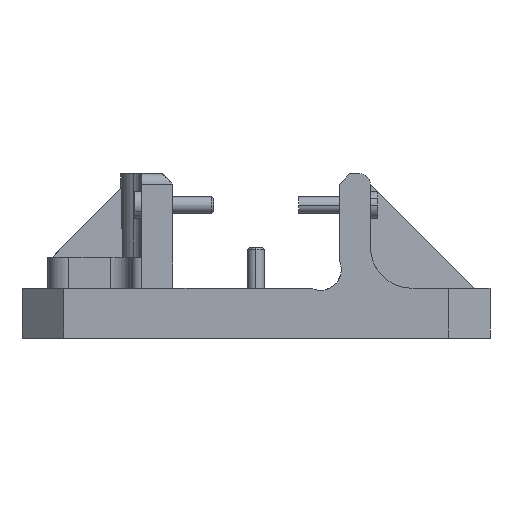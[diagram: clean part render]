
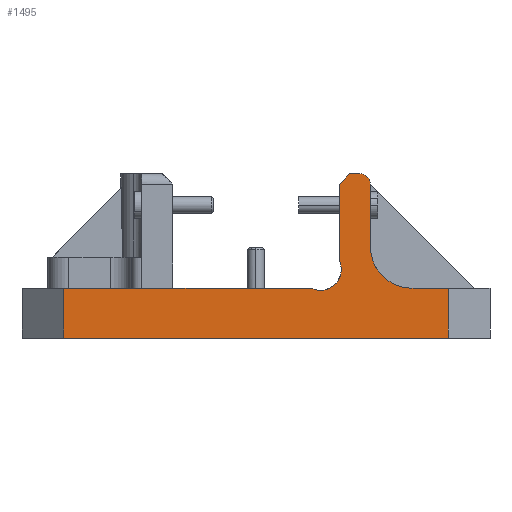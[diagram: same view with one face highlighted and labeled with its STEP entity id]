
A CAD part, front view. The second image highlights one B-rep face of the part: STEP entity #1495.
In plain terms, the highlighted planar face has unit normal (0, -1, 0).
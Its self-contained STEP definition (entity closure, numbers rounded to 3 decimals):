
#1495=ADVANCED_FACE('Pad.2',(#3597),#3598,.F.);
#3597=FACE_OUTER_BOUND('',#6693,.T.);
#3598=PLANE('',#6694);
#6693=EDGE_LOOP('',(#10178,#10179,#10180,#10181,#10182,#10183,#10184,#10185,#10186,#10187,#10188,#10189,#10190));
#6694=AXIS2_PLACEMENT_3D('',#10191,#10192,#10193);
#10178=ORIENTED_EDGE('',*,*,#17808,.T.);
#10179=ORIENTED_EDGE('',*,*,#17809,.T.);
#10180=ORIENTED_EDGE('',*,*,#17810,.F.);
#10181=ORIENTED_EDGE('',*,*,#17811,.T.);
#10182=ORIENTED_EDGE('',*,*,#17806,.F.);
#10183=ORIENTED_EDGE('',*,*,#17783,.T.);
#10184=ORIENTED_EDGE('',*,*,#17812,.T.);
#10185=ORIENTED_EDGE('',*,*,#17760,.T.);
#10186=ORIENTED_EDGE('',*,*,#17813,.T.);
#10187=ORIENTED_EDGE('',*,*,#17814,.F.);
#10188=ORIENTED_EDGE('',*,*,#17815,.T.);
#10189=ORIENTED_EDGE('',*,*,#17816,.T.);
#10190=ORIENTED_EDGE('',*,*,#17817,.T.);
#10191=CARTESIAN_POINT('',(0.0,-157.5,0.0));
#10192=DIRECTION('',(0.0,1.0,0.0));
#10193=DIRECTION('',(0.0,0.0,1.0));
#17760=EDGE_CURVE('',#21231,#21235,#21237,.T.);
#17783=EDGE_CURVE('',#21269,#21274,#21276,.T.);
#17806=EDGE_CURVE('',#21269,#21303,#21307,.F.);
#17808=EDGE_CURVE('',#21309,#21310,#21311,.T.);
#17809=EDGE_CURVE('',#21310,#21312,#21313,.T.);
#17810=EDGE_CURVE('',#21314,#21312,#21315,.T.);
#17811=EDGE_CURVE('',#21314,#21303,#21316,.F.);
#17812=EDGE_CURVE('',#21274,#21231,#21317,.T.);
#17813=EDGE_CURVE('',#21235,#21318,#21319,.T.);
#17814=EDGE_CURVE('',#21320,#21318,#21321,.T.);
#17815=EDGE_CURVE('',#21320,#21322,#21323,.F.);
#17816=EDGE_CURVE('',#21322,#21324,#21325,.T.);
#17817=EDGE_CURVE('',#21324,#21309,#21326,.F.);
#21231=VERTEX_POINT('',#26243);
#21235=VERTEX_POINT('',#26248);
#21237=CIRCLE('',#26251,10.0);
#21269=VERTEX_POINT('',#26291);
#21274=VERTEX_POINT('',#26298);
#21276=LINE('',#26301,#26302);
#21303=VERTEX_POINT('',#26331);
#21307=LINE('',#26337,#26338);
#21309=VERTEX_POINT('',#26340);
#21310=VERTEX_POINT('',#26341);
#21311=CIRCLE('',#26342,20.0);
#21312=VERTEX_POINT('',#26343);
#21313=LINE('',#26344,#26345);
#21314=VERTEX_POINT('',#26346);
#21315=CIRCLE('',#26347,5.0);
#21316=LINE('',#26348,#26349);
#21317=CIRCLE('',#26350,10.0);
#21318=VERTEX_POINT('',#26351);
#21319=LINE('',#26352,#26353);
#21320=VERTEX_POINT('',#26354);
#21321=LINE('',#26355,#26356);
#21322=VERTEX_POINT('',#26357);
#21323=LINE('',#26358,#26359);
#21324=VERTEX_POINT('',#26360);
#21325=LINE('',#26361,#26362);
#21326=LINE('',#26363,#26364);
#26243=CARTESIAN_POINT('',(31.,-157.5,6.));
#26248=CARTESIAN_POINT('',(26.641,-157.5,7.));
#26251=AXIS2_PLACEMENT_3D('',#32104,#32105,#32106);
#26291=CARTESIAN_POINT('',(40.0,-157.5,57.));
#26298=CARTESIAN_POINT('',(40.0,-157.5,20.359));
#26301=CARTESIAN_POINT('',(40.0,-157.5,38.679));
#26302=VECTOR('',#32136,1.0);
#26331=CARTESIAN_POINT('',(45.0,-157.5,62.));
#26337=CARTESIAN_POINT('',(42.5,-157.5,59.5));
#26338=VECTOR('',#32183,1.0);
#26340=CARTESIAN_POINT('',(75.,-157.5,7.));
#26341=CARTESIAN_POINT('',(55.,-157.5,27.));
#26342=AXIS2_PLACEMENT_3D('',#32184,#32185,#32186);
#26343=CARTESIAN_POINT('',(55.,-157.5,57.));
#26344=CARTESIAN_POINT('',(55.,-157.5,42.));
#26345=VECTOR('',#32187,1.0);
#26346=CARTESIAN_POINT('',(50.,-157.5,62.));
#26347=AXIS2_PLACEMENT_3D('',#32188,#32189,#32190);
#26348=CARTESIAN_POINT('',(47.5,-157.5,62.));
#26349=VECTOR('',#32191,1.0);
#26350=AXIS2_PLACEMENT_3D('',#32192,#32193,#32194);
#26351=CARTESIAN_POINT('',(-92.5,-157.5,7.));
#26352=CARTESIAN_POINT('',(-32.929,-157.5,7.));
#26353=VECTOR('',#32195,1.0);
#26354=CARTESIAN_POINT('',(-92.5,-157.5,-17.0));
#26355=CARTESIAN_POINT('',(-92.5,-157.5,-5.));
#26356=VECTOR('',#32196,1.0);
#26357=CARTESIAN_POINT('',(92.5,-157.5,-17.0));
#26358=CARTESIAN_POINT('',(0.,-157.5,-17.0));
#26359=VECTOR('',#32197,1.0);
#26360=CARTESIAN_POINT('',(92.5,-157.5,7.));
#26361=CARTESIAN_POINT('',(92.5,-157.5,-5.));
#26362=VECTOR('',#32198,1.0);
#26363=CARTESIAN_POINT('',(83.75,-157.5,7.));
#26364=VECTOR('',#32199,1.0);
#32104=CARTESIAN_POINT('',(31.,-157.5,16.));
#32105=DIRECTION('',(0.0,1.0,0.0));
#32106=DIRECTION('',(0.0,0.0,1.0));
#32136=DIRECTION('',(0.0,0.0,-1.0));
#32183=DIRECTION('',(-0.707,0.0,-0.707));
#32184=CARTESIAN_POINT('',(75.,-157.5,27.));
#32185=DIRECTION('',(0.0,1.0,0.0));
#32186=DIRECTION('',(0.0,0.0,1.0));
#32187=DIRECTION('',(0.0,0.0,1.0));
#32188=CARTESIAN_POINT('',(50.,-157.5,57.));
#32189=DIRECTION('',(0.0,1.0,0.0));
#32190=DIRECTION('',(0.0,0.0,1.0));
#32191=DIRECTION('',(1.0,0.0,0.0));
#32192=CARTESIAN_POINT('',(31.,-157.5,16.));
#32193=DIRECTION('',(0.0,1.0,0.0));
#32194=DIRECTION('',(0.0,0.0,1.0));
#32195=DIRECTION('',(-1.0,0.0,0.0));
#32196=DIRECTION('',(0.0,0.0,1.0));
#32197=DIRECTION('',(-1.0,0.0,0.0));
#32198=DIRECTION('',(0.0,0.0,1.0));
#32199=DIRECTION('',(1.0,0.0,0.0));
